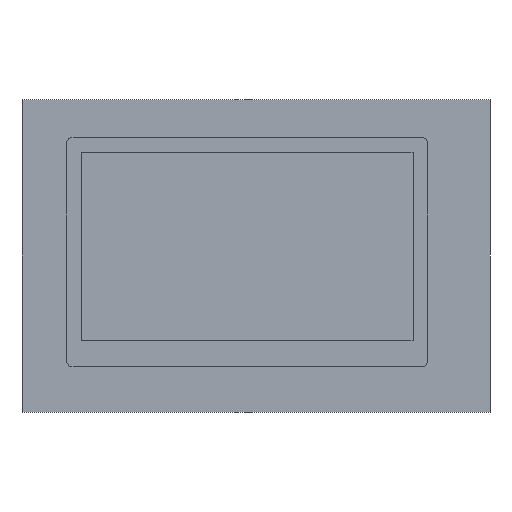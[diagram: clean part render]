
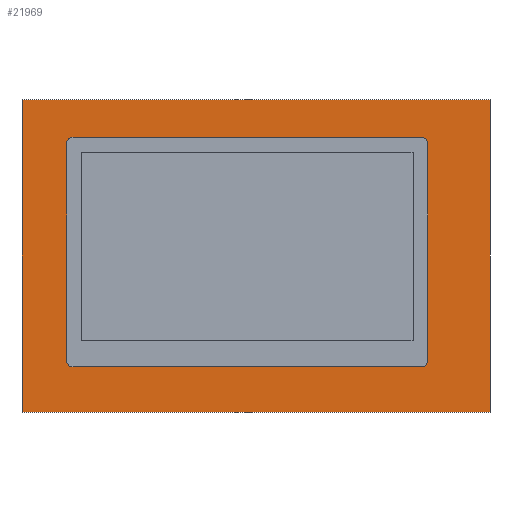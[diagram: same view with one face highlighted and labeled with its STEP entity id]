
A CAD part, front view. The second image highlights one B-rep face of the part: STEP entity #21969.
In plain terms, the highlighted planar face has unit normal (0, -1, 0).
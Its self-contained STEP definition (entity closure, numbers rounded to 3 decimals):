
#21560=DIRECTION('',(0.,0.,-1.));
#21561=VECTOR('',#21560,159.035);
#21562=CARTESIAN_POINT('',(-131.7,-0.335,80.6));
#21563=LINE('',#21562,#21561);
#21564=DIRECTION('',(1.,0.,0.));
#21565=VECTOR('',#21564,264.8);
#21566=CARTESIAN_POINT('',(-131.7,-0.335,-78.435));
#21567=LINE('',#21566,#21565);
#21568=DIRECTION('',(0.,0.,1.));
#21569=VECTOR('',#21568,159.035);
#21570=CARTESIAN_POINT('',(133.1,-0.335,-78.435));
#21571=LINE('',#21570,#21569);
#21572=DIRECTION('',(-1.,0.,0.));
#21573=VECTOR('',#21572,264.8);
#21574=CARTESIAN_POINT('',(133.1,-0.335,80.6));
#21575=LINE('',#21574,#21573);
#21576=DIRECTION('',(1.,0.,0.));
#21577=VECTOR('',#21576,362.725);
#21578=CARTESIAN_POINT('',(-174.547,-0.335,
118.112));
#21579=LINE('',#21578,#21577);
#21580=DIRECTION('',(0.,0.,-1.));
#21581=VECTOR('',#21580,242.22);
#21582=CARTESIAN_POINT('',(188.177,-0.335,
118.112));
#21583=LINE('',#21582,#21581);
#21584=DIRECTION('',(-1.,0.,0.));
#21585=VECTOR('',#21584,362.725);
#21586=CARTESIAN_POINT('',(188.177,-0.335,
-124.108));
#21587=LINE('',#21586,#21585);
#21588=DIRECTION('',(0.,0.,1.));
#21589=VECTOR('',#21588,242.22);
#21590=CARTESIAN_POINT('',(-174.547,-0.335,
-124.108));
#21591=LINE('',#21590,#21589);
#21592=CARTESIAN_POINT('',(136.6,-0.335,69.));
#21593=DIRECTION('',(0.,1.,0.));
#21594=DIRECTION('',(-1.,0.,0.));
#21595=AXIS2_PLACEMENT_3D('',#21592,#21593,#21594);
#21597=CARTESIAN_POINT('',(136.6,-0.335,69.));
#21598=DIRECTION('',(0.,1.,0.));
#21599=DIRECTION('',(1.,0.,0.));
#21600=AXIS2_PLACEMENT_3D('',#21597,#21598,#21599);
#21602=CARTESIAN_POINT('',(136.6,-0.335,-69.));
#21603=DIRECTION('',(0.,1.,0.));
#21604=DIRECTION('',(-1.,0.,0.));
#21605=AXIS2_PLACEMENT_3D('',#21602,#21603,#21604);
#21607=CARTESIAN_POINT('',(136.6,-0.335,-69.));
#21608=DIRECTION('',(0.,1.,0.));
#21609=DIRECTION('',(1.,0.,0.));
#21610=AXIS2_PLACEMENT_3D('',#21607,#21608,#21609);
#21612=CARTESIAN_POINT('',(-136.6,-0.335,-69.));
#21613=DIRECTION('',(0.,1.,0.));
#21614=DIRECTION('',(-1.,0.,0.));
#21615=AXIS2_PLACEMENT_3D('',#21612,#21613,#21614);
#21617=CARTESIAN_POINT('',(-136.6,-0.335,-69.));
#21618=DIRECTION('',(0.,1.,0.));
#21619=DIRECTION('',(1.,0.,0.));
#21620=AXIS2_PLACEMENT_3D('',#21617,#21618,#21619);
#21622=CARTESIAN_POINT('',(-136.6,-0.335,69.));
#21623=DIRECTION('',(0.,1.,0.));
#21624=DIRECTION('',(-1.,0.,0.));
#21625=AXIS2_PLACEMENT_3D('',#21622,#21623,#21624);
#21627=CARTESIAN_POINT('',(-136.6,-0.335,69.));
#21628=DIRECTION('',(0.,1.,0.));
#21629=DIRECTION('',(1.,0.,0.));
#21630=AXIS2_PLACEMENT_3D('',#21627,#21628,#21629);
#21840=CARTESIAN_POINT('',(-131.7,-0.335,80.6));
#21841=CARTESIAN_POINT('',(-131.7,-0.335,-78.435));
#21842=VERTEX_POINT('',#21840);
#21843=VERTEX_POINT('',#21841);
#21844=CARTESIAN_POINT('',(133.1,-0.335,-78.435));
#21845=VERTEX_POINT('',#21844);
#21846=CARTESIAN_POINT('',(133.1,-0.335,80.6));
#21847=VERTEX_POINT('',#21846);
#21848=CARTESIAN_POINT('',(-174.547,-0.335,
118.112));
#21849=CARTESIAN_POINT('',(188.177,-0.335,
118.112));
#21850=VERTEX_POINT('',#21848);
#21851=VERTEX_POINT('',#21849);
#21852=CARTESIAN_POINT('',(188.177,-0.335,
-124.108));
#21853=VERTEX_POINT('',#21852);
#21854=CARTESIAN_POINT('',(-174.547,-0.335,
-124.108));
#21855=VERTEX_POINT('',#21854);
#21880=CARTESIAN_POINT('',(133.35,-0.335,69.));
#21881=CARTESIAN_POINT('',(139.85,-0.335,69.));
#21882=VERTEX_POINT('',#21880);
#21883=VERTEX_POINT('',#21881);
#21888=CARTESIAN_POINT('',(133.35,-0.335,-69.));
#21889=CARTESIAN_POINT('',(139.85,-0.335,-69.));
#21890=VERTEX_POINT('',#21888);
#21891=VERTEX_POINT('',#21889);
#21904=CARTESIAN_POINT('',(-139.85,-0.335,-69.));
#21905=CARTESIAN_POINT('',(-133.35,-0.335,-69.));
#21906=VERTEX_POINT('',#21904);
#21907=VERTEX_POINT('',#21905);
#21912=CARTESIAN_POINT('',(-139.85,-0.335,69.));
#21913=CARTESIAN_POINT('',(-133.35,-0.335,69.));
#21914=VERTEX_POINT('',#21912);
#21915=VERTEX_POINT('',#21913);
#21920=CARTESIAN_POINT('',(0.,-0.335,106.8));
#21921=DIRECTION('',(0.,1.,0.));
#21922=DIRECTION('',(0.,0.,-1.));
#21923=AXIS2_PLACEMENT_3D('',#21920,#21921,#21922);
#21924=PLANE('',#21923);
#21926=ORIENTED_EDGE('',*,*,#21925,.T.);
#21928=ORIENTED_EDGE('',*,*,#21927,.T.);
#21930=ORIENTED_EDGE('',*,*,#21929,.T.);
#21932=ORIENTED_EDGE('',*,*,#21931,.T.);
#21933=EDGE_LOOP('',(#21926,#21928,#21930,#21932));
#21934=FACE_OUTER_BOUND('',#21933,.F.);
#21936=ORIENTED_EDGE('',*,*,#21935,.T.);
#21938=ORIENTED_EDGE('',*,*,#21937,.T.);
#21940=ORIENTED_EDGE('',*,*,#21939,.T.);
#21942=ORIENTED_EDGE('',*,*,#21941,.T.);
#21943=EDGE_LOOP('',(#21936,#21938,#21940,#21942));
#21944=FACE_BOUND('',#21943,.F.);
#21946=ORIENTED_EDGE('',*,*,#21945,.F.);
#21948=ORIENTED_EDGE('',*,*,#21947,.F.);
#21949=EDGE_LOOP('',(#21946,#21948));
#21950=FACE_BOUND('',#21949,.F.);
#21952=ORIENTED_EDGE('',*,*,#21951,.F.);
#21954=ORIENTED_EDGE('',*,*,#21953,.F.);
#21955=EDGE_LOOP('',(#21952,#21954));
#21956=FACE_BOUND('',#21955,.F.);
#21958=ORIENTED_EDGE('',*,*,#21957,.F.);
#21960=ORIENTED_EDGE('',*,*,#21959,.F.);
#21961=EDGE_LOOP('',(#21958,#21960));
#21962=FACE_BOUND('',#21961,.F.);
#21964=ORIENTED_EDGE('',*,*,#21963,.F.);
#21966=ORIENTED_EDGE('',*,*,#21965,.F.);
#21967=EDGE_LOOP('',(#21964,#21966));
#21968=FACE_BOUND('',#21967,.F.);
#21969=ADVANCED_FACE('',(#21934,#21944,#21950,#21956,#21962,#21968),#21924,.F.);
#21596=CIRCLE('',#21595,3.25);
#21601=CIRCLE('',#21600,3.25);
#21606=CIRCLE('',#21605,3.25);
#21611=CIRCLE('',#21610,3.25);
#21616=CIRCLE('',#21615,3.25);
#21621=CIRCLE('',#21620,3.25);
#21626=CIRCLE('',#21625,3.25);
#21631=CIRCLE('',#21630,3.25);
#21925=EDGE_CURVE('',#21850,#21851,#21579,.T.);
#21927=EDGE_CURVE('',#21851,#21853,#21583,.T.);
#21929=EDGE_CURVE('',#21853,#21855,#21587,.T.);
#21931=EDGE_CURVE('',#21855,#21850,#21591,.T.);
#21935=EDGE_CURVE('',#21842,#21843,#21563,.T.);
#21937=EDGE_CURVE('',#21843,#21845,#21567,.T.);
#21939=EDGE_CURVE('',#21845,#21847,#21571,.T.);
#21941=EDGE_CURVE('',#21847,#21842,#21575,.T.);
#21945=EDGE_CURVE('',#21882,#21883,#21596,.T.);
#21947=EDGE_CURVE('',#21883,#21882,#21601,.T.);
#21951=EDGE_CURVE('',#21890,#21891,#21606,.T.);
#21953=EDGE_CURVE('',#21891,#21890,#21611,.T.);
#21957=EDGE_CURVE('',#21906,#21907,#21616,.T.);
#21959=EDGE_CURVE('',#21907,#21906,#21621,.T.);
#21963=EDGE_CURVE('',#21914,#21915,#21626,.T.);
#21965=EDGE_CURVE('',#21915,#21914,#21631,.T.);
